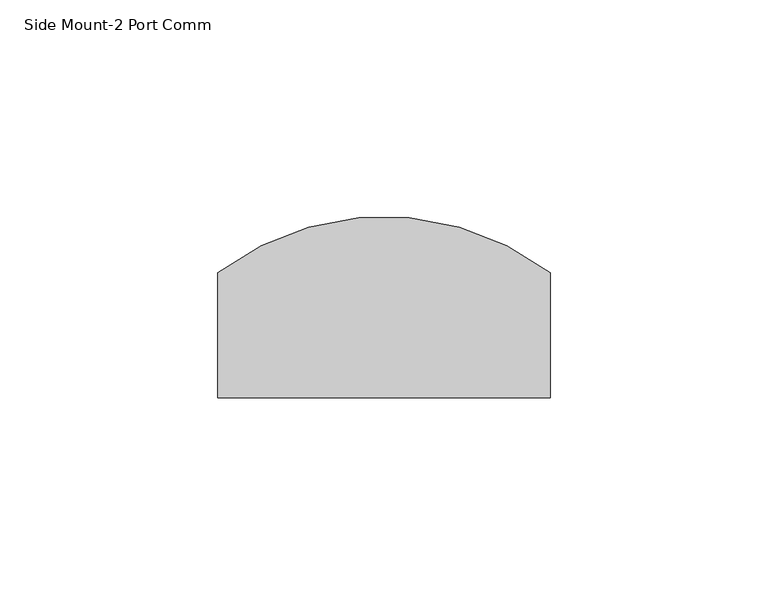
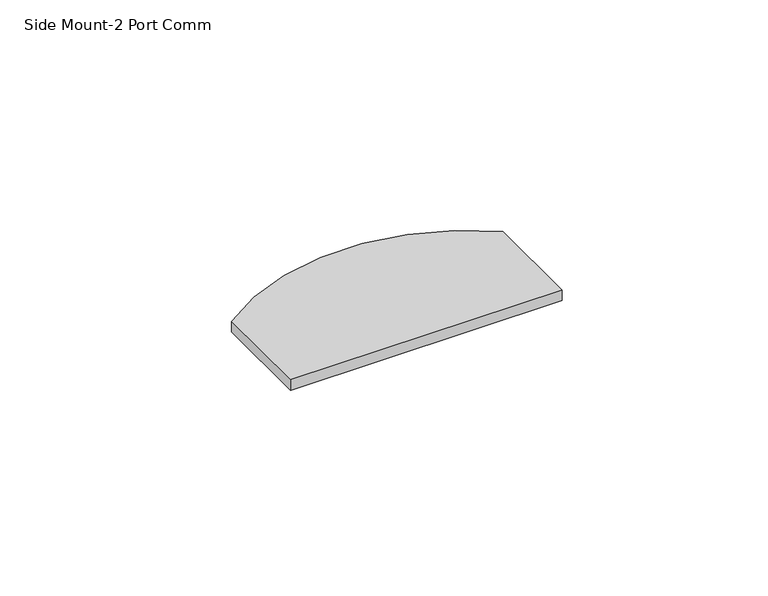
"""IFC4 building model written with IfcOpenShell, lengths in millimetres: proxy geometry, Device_Plate-Evolution_Poke_Thru_8AT_Series-Wiremold : Side Mount-2 Port Comm."""

from ifc_helpers import new_model, si_unit, point, frame_2d, origin, origin_with_axes, place, context, project, spatial, polyline, circle_curve, trimmed, segment, composite_curve, outline, extrude, source, transform, mapped, element, save


def side_mount_2_port_comm_beeeb3a7(model_context):
    return source(origin(), model_context, "Body", "SweptSolid", [
        extrude(outline(composite_curve([segment(polyline([(38.1, -20.6375), (-38.1, -20.6375), (-38.1, 7.9670196)]), True, "CONTINUOUS"), segment(trimmed(circle_curve(frame_2d((0.0, -41.91)), 62.7640589), [point((-38.1, 7.9670196))], [point((38.1, 7.9670196))], False, "CARTESIAN"), True, "CONTINUOUS"), segment(polyline([(38.1, 7.9670196), (38.1, -20.6375)]), True, "CONTINUOUS")], self_intersect=False)), origin_with_axes(), (0.0, 0.0, 1.0), 3.175),
    ])


if __name__ == "__main__":
    model = new_model("IFC4")
    model_context = context("Model", 3, world=origin())
    ifc_project = project(units=[si_unit("LENGTHUNIT", "METRE", prefix="MILLI")], contexts=[model_context])
    site = spatial("IfcSite", under=ifc_project)
    building = spatial("IfcBuilding", under=site)
    placement = place(None, origin())
    side_mount_2_port_comm_shape = side_mount_2_port_comm_beeeb3a7(model_context)
    element("IfcBuildingElementProxy", 1, Name="Device_Plate-Evolution_Poke_Thru_8AT_Series-Wiremold : Side Mount-2 Port Comm", ObjectType="Device_Plate-Evolution_Poke_Thru_8AT_Series-Wiremold : Side Mount-2 Port Comm", at=placement, inside=building, context=model_context, shape_type="MappedRepresentation", body=[
        mapped(side_mount_2_port_comm_shape, transform((0.0, 0.0, 0.0), x_axis=(1.0, 0.0, 0.0), y_axis=(0.0, 1.0, 0.0), z_axis=(0.0, 0.0, 1.0))),
    ])
    save(model, "model.ifc")
